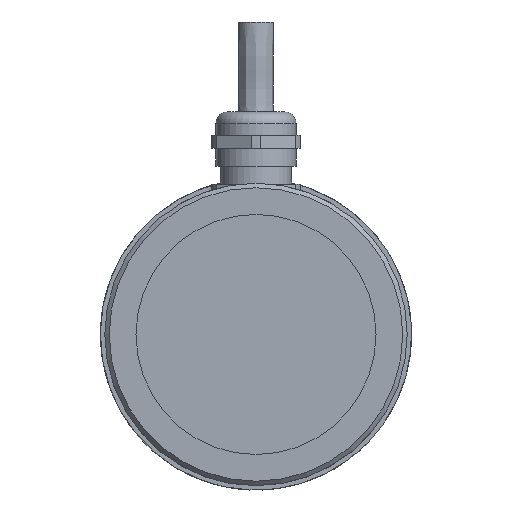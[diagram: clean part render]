
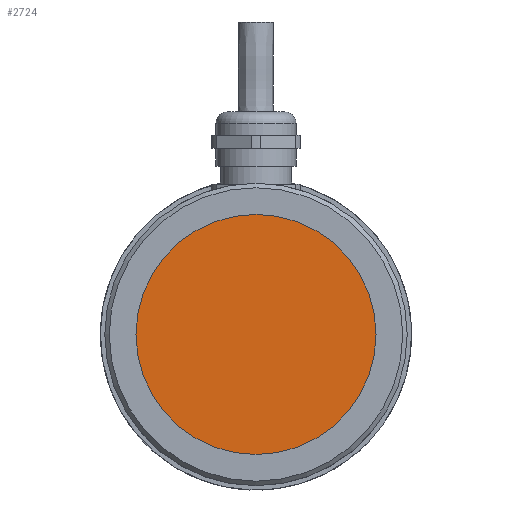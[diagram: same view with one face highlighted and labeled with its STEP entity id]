
A CAD part, left-side view. The second image highlights one B-rep face of the part: STEP entity #2724.
In plain terms, the highlighted planar face has unit normal (-1, 0, 0).
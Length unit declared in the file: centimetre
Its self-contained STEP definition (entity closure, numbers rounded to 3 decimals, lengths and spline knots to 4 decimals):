
#707=PLANE('',#2889);
#1117=VERTEX_POINT('',#3129);
#1314=CIRCLE('',#2888,2.7);
#1409=EDGE_CURVE('',#1117,#1117,#1314,.T.);
#1757=ORIENTED_EDGE('',*,*,#1409,.T.);
#2377=EDGE_LOOP('',(#1757));
#2556=FACE_BOUND('',#2377,.T.);
#2724=ADVANCED_FACE('',(#2556),#707,.T.);
#2888=AXIS2_PLACEMENT_3D('',#3128,#7600,#7601);
#2889=AXIS2_PLACEMENT_3D('',#3130,#7602,$);
#3128=CARTESIAN_POINT('',(0.1,0.,0.));
#3129=CARTESIAN_POINT('',(0.1,0.,2.7));
#3130=CARTESIAN_POINT('',(0.1,0.,0.));
#7600=DIRECTION('',(-1.,0.,0.));
#7601=DIRECTION('',(0.,0.,2.7));
#7602=DIRECTION('',(-1.,0.,0.));
